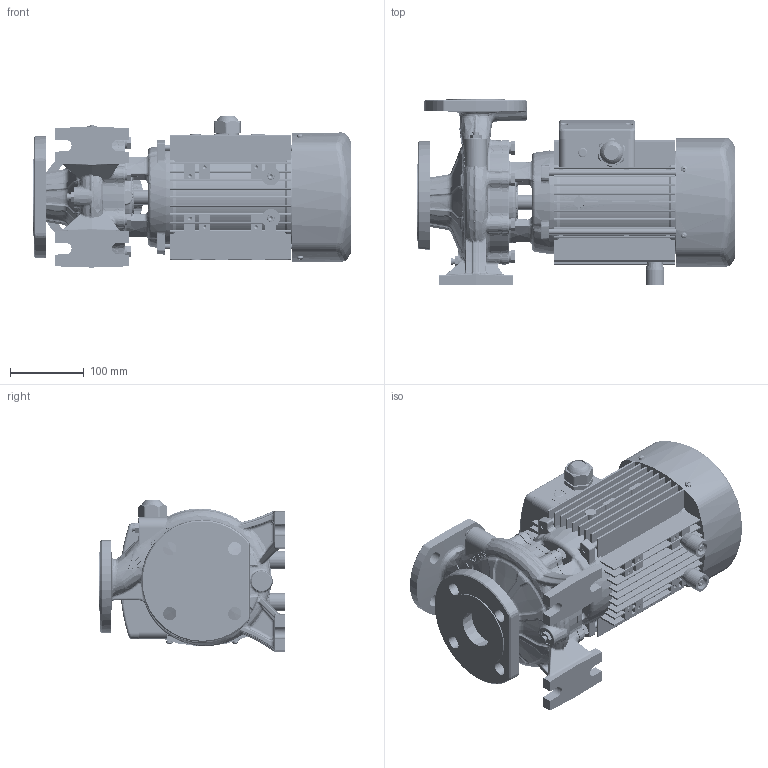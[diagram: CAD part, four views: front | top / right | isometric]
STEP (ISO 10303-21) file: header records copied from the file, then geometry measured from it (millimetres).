
FILE_DESCRIPTION (( 'STEP AP203' ), '1' );
FILE_NAME ('TST32-125-0.75 1.1安装尺寸图.STEP', '2026-04-27T08:43:58', ( '微软用户' ), ( '微软中国' ), 'SwSTEP 2.0', 'SolidWorks 2020', '' );
FILE_SCHEMA (( 'CONFIG_CONTROL_DESIGN' ));
Products named in the file (1): TST32-125-0.75 1.1假蚾喜渡芞
Bounding box: 432.5 x 252 x 205.48 mm (x, y, z)
Volume: 8812379.1 mm3; surface area: 723454.3 mm2
Topology: 1 solids, 11 shells, 4411 faces, 11046 edges, 6851 vertices
Faces by surface type: cylinder 1369, plane 1195, bspline 1134, cone 389, torus 258, sphere 66
Entity records: 223293 total; most frequent: CARTESIAN_POINT 127123, ORIENTED_EDGE 22006, DIRECTION 17575, EDGE_CURVE 11003, AXIS2_PLACEMENT_3D 7113, VERTEX_POINT 6850, EDGE_LOOP 4703, FACE_OUTER_BOUND 4411
